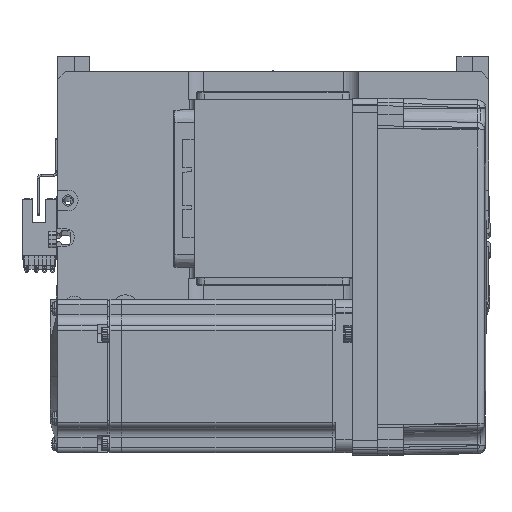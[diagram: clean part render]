
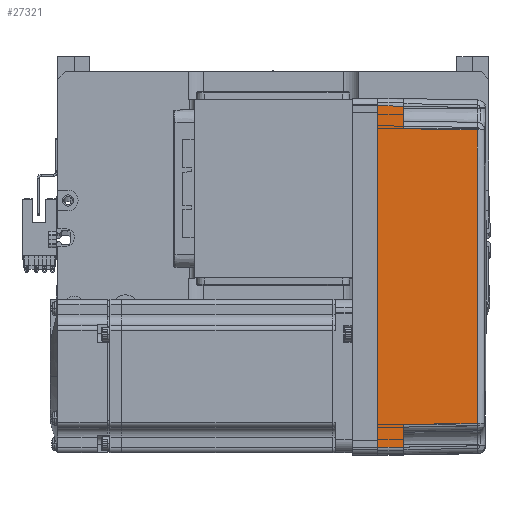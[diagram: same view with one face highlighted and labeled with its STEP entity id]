
A CAD part, top view. The second image highlights one B-rep face of the part: STEP entity #27321.
In plain terms, the highlighted planar face has unit normal (0.018, 0, 1) as drawn and (0, 1, 0.017) by its records, which use the part's own axes.
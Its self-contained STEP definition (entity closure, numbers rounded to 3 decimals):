
#16 = EDGE_CURVE ( 'NONE', #57533, #59820, #3492, .T. ) ;
#202 = ORIENTED_EDGE ( 'NONE', *, *, #56209, .T. ) ;
#901 = CARTESIAN_POINT ( 'NONE',  ( 70., 36., 0. ) ) ;
#1112 = PLANE ( 'NONE',  #16911 ) ;
#1178 = CARTESIAN_POINT ( 'NONE',  ( 57.495, 35.32, 38.985 ) ) ;
#1427 = CARTESIAN_POINT ( 'NONE',  ( -19.165, 35.316, 39.181 ) ) ;
#1962 = CARTESIAN_POINT ( 'NONE',  ( -67., 36., 0. ) ) ;
#3079 = CARTESIAN_POINT ( 'NONE',  ( -58., 35.825, 10. ) ) ;
#3120 = EDGE_CURVE ( 'NONE', #6707, #22864, #42437, .T. ) ;
#3492 = LINE ( 'NONE', #1962, #12668 ) ;
#4770 = DIRECTION ( 'NONE',  ( -0.017, -0.017, 1. ) ) ;
#4782 = CARTESIAN_POINT ( 'NONE',  ( 70., 35.825, 10. ) ) ;
#5721 = CARTESIAN_POINT ( 'NONE',  ( -67., 36., 0. ) ) ;
#6707 = VERTEX_POINT ( 'NONE', #3079 ) ;
#7885 = CARTESIAN_POINT ( 'NONE',  ( -66.826, 35.825, 10. ) ) ;
#8179 = DIRECTION ( 'NONE',  ( 0.017, -0.017, 1. ) ) ;
#8245 = VECTOR ( 'NONE', #8480, 1000. ) ;
#8282 = CARTESIAN_POINT ( 'NONE',  ( 57.495, 35.32, 38.985 ) ) ;
#8480 = DIRECTION ( 'NONE',  ( 0.017, 0.017, -1. ) ) ;
#9532 = CARTESIAN_POINT ( 'NONE',  ( 70., 35.825, 10. ) ) ;
#9712 = DIRECTION ( 'NONE',  ( 1., 0., 0. ) ) ;
#10824 = VECTOR ( 'NONE', #8179, 1000. ) ;
#11744 = ORIENTED_EDGE ( 'NONE', *, *, #3120, .T. ) ;
#12181 = ORIENTED_EDGE ( 'NONE', *, *, #34324, .T. ) ;
#12189 = VERTEX_POINT ( 'NONE', #51516 ) ;
#12209 = VERTEX_POINT ( 'NONE', #17079 ) ;
#12668 = VECTOR ( 'NONE', #36439, 1000. ) ;
#15006 = LINE ( 'NONE', #9532, #21872 ) ;
#15163 = LINE ( 'NONE', #49412, #62177 ) ;
#16088 = CARTESIAN_POINT ( 'NONE',  ( 57.495, 35.32, 38.985 ) ) ;
#16911 = AXIS2_PLACEMENT_3D ( 'NONE', #901, #21340, #30625 ) ;
#17079 = CARTESIAN_POINT ( 'NONE',  ( 58., 35.825, 10. ) ) ;
#19476 = B_SPLINE_CURVE_WITH_KNOTS ( 'NONE', 3,
 ( #51166, #1427, #60890, #16088 ),
 .UNSPECIFIED., .F., .F.,
 ( 4, 4 ),
 ( 0., 1. ),
 .UNSPECIFIED. ) ;
#21340 = DIRECTION ( 'NONE',  ( 0., 1., 0.017 ) ) ;
#21872 = VECTOR ( 'NONE', #59538, 1000. ) ;
#22433 = ORIENTED_EDGE ( 'NONE', *, *, #49926, .F. ) ;
#22864 = VERTEX_POINT ( 'NONE', #31484 ) ;
#25091 = VECTOR ( 'NONE', #9712, 1000. ) ;
#25466 = DIRECTION ( 'NONE',  ( 1., 0., 0. ) ) ;
#26916 = CARTESIAN_POINT ( 'NONE',  ( -58., 35.825, 10. ) ) ;
#27321 = ADVANCED_FACE ( 'NONE', ( #41856 ), #1112, .T. ) ;
#28207 = LINE ( 'NONE', #4782, #25091 ) ;
#29927 = VERTEX_POINT ( 'NONE', #1178 ) ;
#30580 = LINE ( 'NONE', #8282, #8245 ) ;
#30625 = DIRECTION ( 'NONE',  ( 0., -0.017, 1. ) ) ;
#31484 = CARTESIAN_POINT ( 'NONE',  ( -57.495, 35.32, 38.985 ) ) ;
#32153 = ORIENTED_EDGE ( 'NONE', *, *, #63231, .T. ) ;
#34324 = EDGE_CURVE ( 'NONE', #59820, #6707, #28207, .T. ) ;
#36439 = DIRECTION ( 'NONE',  ( 0.017, -0.017, 1. ) ) ;
#39154 = ORIENTED_EDGE ( 'NONE', *, *, #49741, .T. ) ;
#41856 = FACE_OUTER_BOUND ( 'NONE', #53080, .T. ) ;
#42437 = LINE ( 'NONE', #26916, #10824 ) ;
#43643 = ORIENTED_EDGE ( 'NONE', *, *, #16, .T. ) ;
#45029 = ORIENTED_EDGE ( 'NONE', *, *, #53703, .F. ) ;
#49412 = CARTESIAN_POINT ( 'NONE',  ( 0., 36., 0. ) ) ;
#49741 = EDGE_CURVE ( 'NONE', #29927, #12209, #30580, .T. ) ;
#49926 = EDGE_CURVE ( 'NONE', #57533, #51198, #15163, .T. ) ;
#51166 = CARTESIAN_POINT ( 'NONE',  ( -57.495, 35.32, 38.985 ) ) ;
#51198 = VERTEX_POINT ( 'NONE', #54709 ) ;
#51516 = CARTESIAN_POINT ( 'NONE',  ( 66.826, 35.825, 10. ) ) ;
#53080 = EDGE_LOOP ( 'NONE', ( #43643, #12181, #11744, #32153, #39154, #202, #45029, #22433 ) ) ;
#53703 = EDGE_CURVE ( 'NONE', #51198, #12189, #60066, .T. ) ;
#54636 = VECTOR ( 'NONE', #4770, 1000. ) ;
#54709 = CARTESIAN_POINT ( 'NONE',  ( 67., 36., 0. ) ) ;
#56209 = EDGE_CURVE ( 'NONE', #12209, #12189, #15006, .T. ) ;
#57533 = VERTEX_POINT ( 'NONE', #5721 ) ;
#58845 = CARTESIAN_POINT ( 'NONE',  ( 67.001, 36.001, -0.052 ) ) ;
#59538 = DIRECTION ( 'NONE',  ( 1., 0., 0. ) ) ;
#59820 = VERTEX_POINT ( 'NONE', #7885 ) ;
#60066 = LINE ( 'NONE', #58845, #54636 ) ;
#60890 = CARTESIAN_POINT ( 'NONE',  ( 19.165, 35.316, 39.181 ) ) ;
#62177 = VECTOR ( 'NONE', #25466, 1000. ) ;
#63231 = EDGE_CURVE ( 'NONE', #22864, #29927, #19476, .T. ) ;
